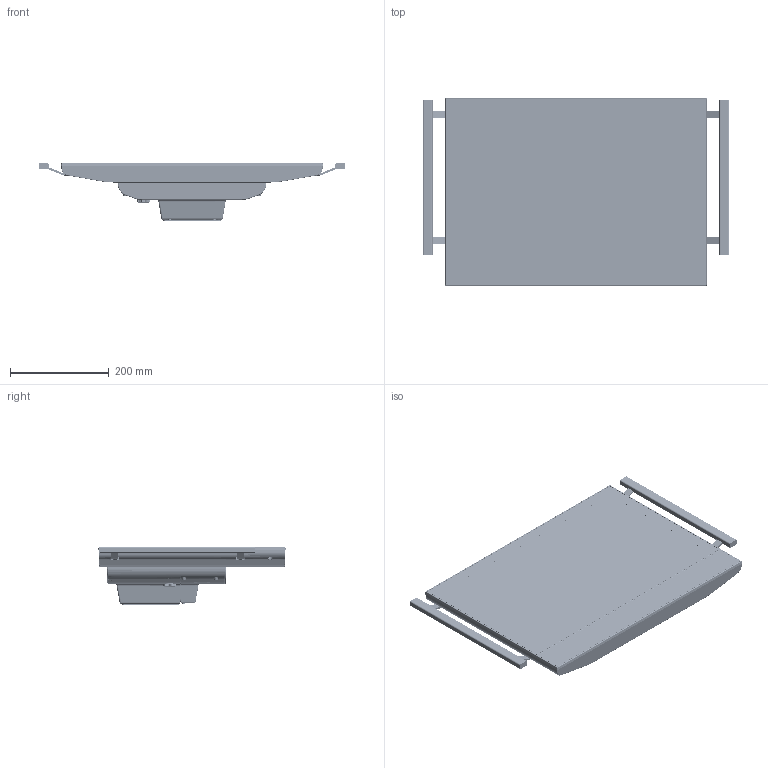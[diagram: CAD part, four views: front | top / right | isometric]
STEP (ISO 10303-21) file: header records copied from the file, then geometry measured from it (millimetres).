
FILE_DESCRIPTION (( 'STEP AP214' ), '1' );
FILE_NAME ('ASEM 6300PA-215BCVMFDNAN-xxxxxxxxxxxxx-xxxxxSC.STEP', '2024-01-18T11:16:25', ( '' ), ( '' ), 'SwSTEP 2.0', 'SolidWorks 2023', '' );
FILE_SCHEMA (( 'AUTOMOTIVE_DESIGN' ));
Length unit declared in the file: millimetre
Products named in the file (20): 69111016; 55455159; 56636882; 50342036; 69111037; 56600634; 56202009; ASEM 6300PA-215BCVMFDNAN-xxxxxxxxxxxxx-xxxxxSC; ________________________________________^00_d18201916; 57836054_Default<A macchina>; 55688022; 56636888_Default<A macchina>; kit_posteriore_vesa_usb3; 66811015; 56600807; 55600031; 56236021; 56600880; 69111017; 57342357
Assembly tree (34 placements, depth 4):
  ASEM 6300PA-215BCVMFDNAN-xxxxxxxxxxxxx-xxxxxSC
    56600807
      56600880
        56636882
        50342036
        55455159
      55600031
        55688022
    56600634
      56636888_Default<A macchina>
      57342357
    57836054_Default<A macchina>
    69111016  x2
    69111017  x2
    56202009  x4
    56236021  x2
    66811015  x8
    69111037  x4
    kit_posteriore_vesa_usb3
  ________________________________________^00_d18201916
Bounding box: 619.5 x 378.65 x 118.01 mm (x, y, z)
Volume: 1611050.7 mm3; surface area: 1319321.3 mm2
Topology: 69 solids, 125 shells, 7710 faces, 19852 edges, 12592 vertices
Faces by surface type: plane 3072, cylinder 2292, cone 1366, bspline 574, torus 298, sphere 108
Entity records: 266171 total; most frequent: CARTESIAN_POINT 93204, ORIENTED_EDGE 36294, DIRECTION 35813, EDGE_CURVE 18181, AXIS2_PLACEMENT_3D 13572, VERTEX_POINT 11610, VECTOR 8669, LINE 8669
